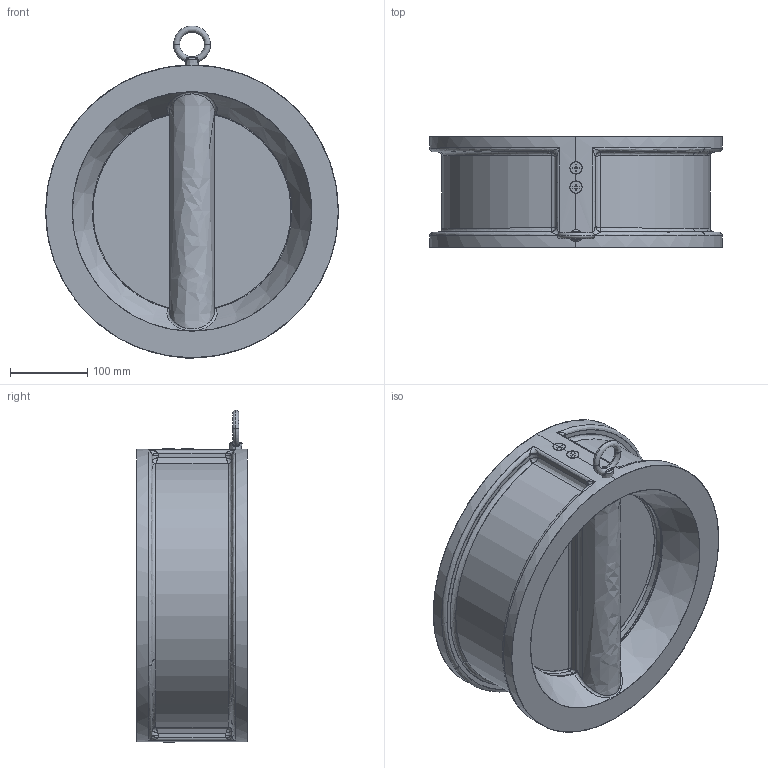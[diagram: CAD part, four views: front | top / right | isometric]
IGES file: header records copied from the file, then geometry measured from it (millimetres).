
Start section: SolidWorks IGES file using analytic representation for surfaces
Global section: file name: C:\Users\Administrator\Desktop\temp\00.IGS; native system: SolidWorks 2015; preprocessor: SolidWorks 2015; author: Administrator; date: 170402.175951; units: millimetre
Bounding box: 380 x 144 x 431.01 mm (x, y, z)
Surface area: 787799.7 mm2 (no closed solid volume)
Topology: 0 solids, 0 shells, 501 faces, 5856 edges, 5829 vertices
Faces by surface type: bspline 298, revolution 203
